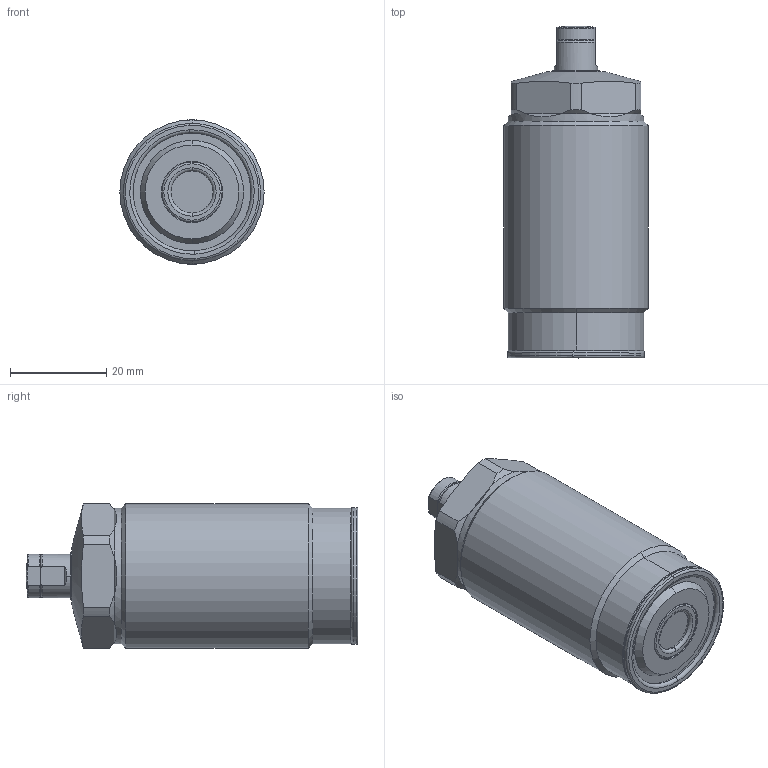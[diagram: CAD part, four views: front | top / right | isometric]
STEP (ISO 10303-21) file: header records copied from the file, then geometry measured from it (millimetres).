
FILE_DESCRIPTION(/* description */ (''),/* implementation_level */ '2;1');
FILE_NAME(/* name */ 'TNL30.stp',/* time_stamp */ '2025-01-09T10:28:35+08:00',/* author */ (''),/* organization */ (''),/* preprocessor_version */ 'ST-DEVELOPER v16.7',/* originating_system */ 'SIEMENS PLM Software NX 12.0',/* authorisation */ '');
FILE_SCHEMA (('AUTOMOTIVE_DESIGN { 1 0 10303 214 3 1 1 1 }'));
Length unit declared in the file: millimetre
Products named in the file (6): TNL30-01958; TNL30-03; TNL30-05; TNL30-02; TNL30-04; TNL30_stp
Assembly tree (5 placements, depth 2):
  TNL30_stp
    TNL30-04
    TNL30-02
    TNL30-05
    TNL30-03
    TNL30-01958
Bounding box: 30 x 69 x 30 mm (x, y, z)
Volume: 40371 mm3; surface area: 8238.1 mm2
Topology: 5 solids, 5 shells, 128 faces, 277 edges, 166 vertices
Faces by surface type: torus 36, cylinder 36, plane 34, cone 20, sphere 2
Full cylindrical faces by diameter (mm): 28.2 x1, 30 x1
Entity records: 3832 total; most frequent: CARTESIAN_POINT 843, DIRECTION 674, ORIENTED_EDGE 546, AXIS2_PLACEMENT_3D 301, EDGE_CURVE 273, VERTEX_POINT 166, CIRCLE 161, EDGE_LOOP 143
